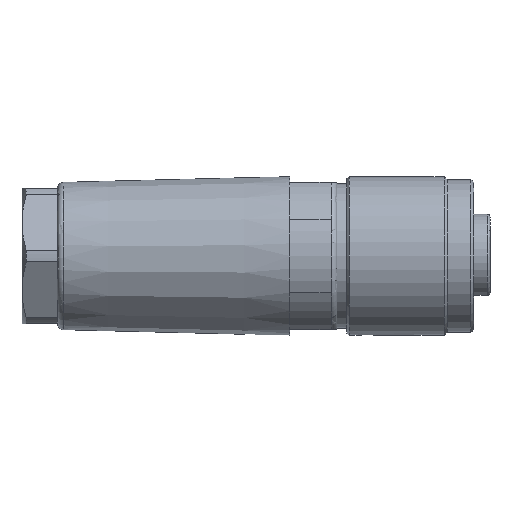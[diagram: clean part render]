
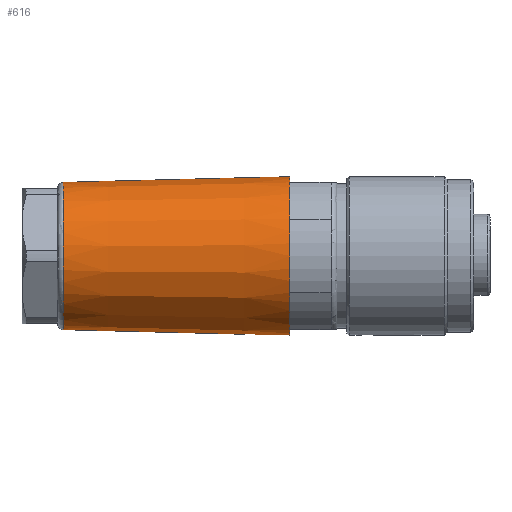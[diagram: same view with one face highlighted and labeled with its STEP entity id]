
A CAD part, left-side view. The second image highlights one B-rep face of the part: STEP entity #616.
In plain terms, the highlighted conical face has half-angle 1.45 degrees and reference radius 13.5 mm.
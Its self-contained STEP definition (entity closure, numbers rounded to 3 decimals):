
#616 = ADVANCED_FACE( '', ( #1299, #1300 ), #1301, .T. );
#1299 = FACE_OUTER_BOUND( '', #2291, .T. );
#1300 = FACE_BOUND( '', #2292, .T. );
#1301 = CONICAL_SURFACE( '', #2293, 13.5, 0.025 );
#2291 = EDGE_LOOP( '', ( #3998, #3999, #4000, #4001, #4002, #4003, #4004, #4005 ) );
#2292 = EDGE_LOOP( '', ( #4006 ) );
#2293 = AXIS2_PLACEMENT_3D( '', #4007, #4008, #4009 );
#3998 = ORIENTED_EDGE( '', *, *, #4626, .F. );
#3999 = ORIENTED_EDGE( '', *, *, #4397, .F. );
#4000 = ORIENTED_EDGE( '', *, *, #4519, .F. );
#4001 = ORIENTED_EDGE( '', *, *, #4675, .F. );
#4002 = ORIENTED_EDGE( '', *, *, #4667, .F. );
#4003 = ORIENTED_EDGE( '', *, *, #4660, .F. );
#4004 = ORIENTED_EDGE( '', *, *, #4273, .F. );
#4005 = ORIENTED_EDGE( '', *, *, #4410, .F. );
#4006 = ORIENTED_EDGE( '', *, *, #4568, .T. );
#4007 = CARTESIAN_POINT( '', ( 0.111, 24., 0. ) );
#4008 = DIRECTION( '', ( 0., -1., 0. ) );
#4009 = DIRECTION( '', ( 0., 0., 1. ) );
#4273 = EDGE_CURVE( '', #5065, #5061, #5067, .T. );
#4397 = EDGE_CURVE( '', #4801, #4795, #5257, .T. );
#4410 = EDGE_CURVE( '', #5195, #5065, #5275, .T. );
#4519 = EDGE_CURVE( '', #5427, #4801, #5429, .T. );
#4568 = EDGE_CURVE( '', #5493, #5493, #5494, .T. );
#4626 = EDGE_CURVE( '', #4795, #5195, #5562, .T. );
#4660 = EDGE_CURVE( '', #5061, #5216, #5600, .T. );
#4667 = EDGE_CURVE( '', #5216, #5606, #5608, .T. );
#4675 = EDGE_CURVE( '', #5606, #5427, #5616, .T. );
#4795 = VERTEX_POINT( '', #5986 );
#4801 = VERTEX_POINT( '', #6023 );
#5061 = VERTEX_POINT( '', #6776 );
#5065 = VERTEX_POINT( '', #6781 );
#5067 = CIRCLE( '', #6784, 13.5 );
#5195 = VERTEX_POINT( '', #7528 );
#5216 = VERTEX_POINT( '', #7586 );
#5257 = CIRCLE( '', #7791, 13.5 );
#5275 = CIRCLE( '', #7848, 13.5 );
#5427 = VERTEX_POINT( '', #8425 );
#5429 = CIRCLE( '', #8428, 13.5 );
#5493 = VERTEX_POINT( '', #8709 );
#5494 = CIRCLE( '', #8710, 12.525 );
#5562 = CIRCLE( '', #8936, 13.5 );
#5600 = CIRCLE( '', #9019, 13.5 );
#5606 = VERTEX_POINT( '', #9025 );
#5608 = CIRCLE( '', #9028, 13.5 );
#5616 = CIRCLE( '', #9037, 13.5 );
#5986 = CARTESIAN_POINT( '', ( -4.988, 24., 12.5 ) );
#6023 = CARTESIAN_POINT( '', ( 5.21, 24., 12.5 ) );
#6776 = CARTESIAN_POINT( '', ( -4.988, 24., -12.5 ) );
#6781 = CARTESIAN_POINT( '', ( -11.855, 24., -6.25 ) );
#6784 = AXIS2_PLACEMENT_3D( '', #9366, #9367, #9368 );
#7528 = CARTESIAN_POINT( '', ( -11.855, 24., 6.25 ) );
#7586 = CARTESIAN_POINT( '', ( 5.21, 24., -12.5 ) );
#7791 = AXIS2_PLACEMENT_3D( '', #9514, #9515, #9516 );
#7848 = AXIS2_PLACEMENT_3D( '', #9522, #9523, #9524 );
#8425 = CARTESIAN_POINT( '', ( 12.077, 24., 6.25 ) );
#8428 = AXIS2_PLACEMENT_3D( '', #9647, #9648, #9649 );
#8709 = CARTESIAN_POINT( '', ( 0.111, 62.525, -12.525 ) );
#8710 = AXIS2_PLACEMENT_3D( '', #9696, #9697, #9698 );
#8936 = AXIS2_PLACEMENT_3D( '', #9763, #9764, #9765 );
#9019 = AXIS2_PLACEMENT_3D( '', #9788, #9789, #9790 );
#9025 = CARTESIAN_POINT( '', ( 12.077, 24., -6.25 ) );
#9028 = AXIS2_PLACEMENT_3D( '', #9795, #9796, #9797 );
#9037 = AXIS2_PLACEMENT_3D( '', #9799, #9800, #9801 );
#9366 = CARTESIAN_POINT( '', ( 0.111, 24., 0. ) );
#9367 = DIRECTION( '', ( 0., -1., 0. ) );
#9368 = DIRECTION( '', ( 0., 0., 1. ) );
#9514 = CARTESIAN_POINT( '', ( 0.111, 24., 0. ) );
#9515 = DIRECTION( '', ( 0., -1., 0. ) );
#9516 = DIRECTION( '', ( 0., 0., 1. ) );
#9522 = CARTESIAN_POINT( '', ( 0.111, 24., 0. ) );
#9523 = DIRECTION( '', ( 0., -1., 0. ) );
#9524 = DIRECTION( '', ( 0., 0., 1. ) );
#9647 = CARTESIAN_POINT( '', ( 0.111, 24., 0. ) );
#9648 = DIRECTION( '', ( 0., -1., 0. ) );
#9649 = DIRECTION( '', ( 0., 0., 1. ) );
#9696 = CARTESIAN_POINT( '', ( 0.111, 62.525, 0. ) );
#9697 = DIRECTION( '', ( 0., -1., 0. ) );
#9698 = DIRECTION( '', ( 0., 0., -1. ) );
#9763 = CARTESIAN_POINT( '', ( 0.111, 24., 0. ) );
#9764 = DIRECTION( '', ( 0., -1., 0. ) );
#9765 = DIRECTION( '', ( 0., 0., 1. ) );
#9788 = CARTESIAN_POINT( '', ( 0.111, 24., 0. ) );
#9789 = DIRECTION( '', ( 0., -1., 0. ) );
#9790 = DIRECTION( '', ( 0., 0., 1. ) );
#9795 = CARTESIAN_POINT( '', ( 0.111, 24., 0. ) );
#9796 = DIRECTION( '', ( 0., -1., 0. ) );
#9797 = DIRECTION( '', ( 0., 0., 1. ) );
#9799 = CARTESIAN_POINT( '', ( 0.111, 24., 0. ) );
#9800 = DIRECTION( '', ( 0., -1., 0. ) );
#9801 = DIRECTION( '', ( 0., 0., 1. ) );
